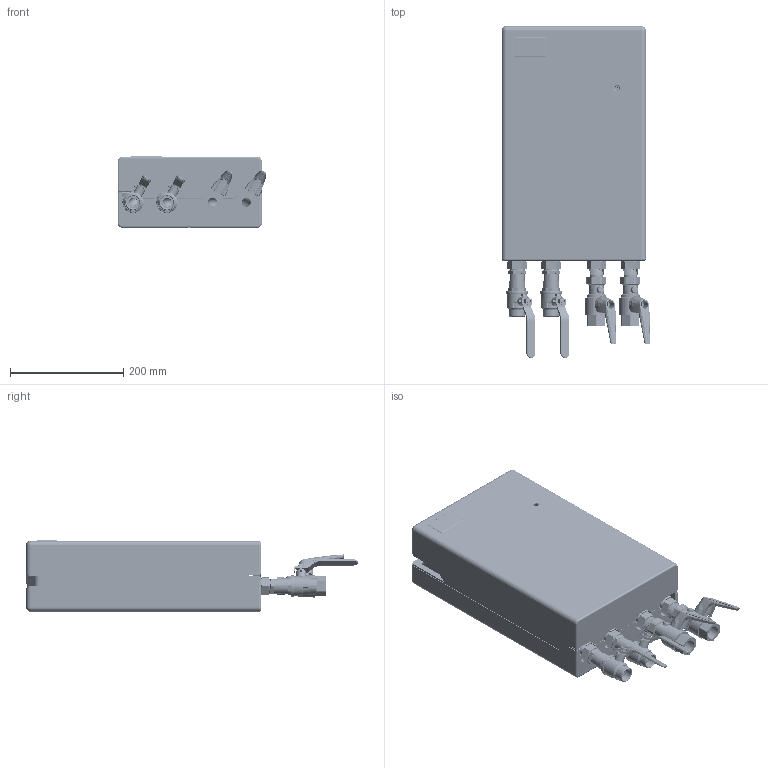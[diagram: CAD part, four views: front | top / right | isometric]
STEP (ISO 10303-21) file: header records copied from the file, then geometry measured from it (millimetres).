
FILE_DESCRIPTION(/* description */ (''),/* implementation_level */ '2;1');
FILE_NAME(/* name */ 'C:\Vault\Designs\HIUs\HSF\The SLIM\SLIM Unit Complete.stp',/* time_stamp */ '2017-12-08T12:36:23+00:00',/* author */ ('jason.lawrence'),/* organization */ (''),/* preprocessor_version */ 'ST-DEVELOPER v16.1',/* originating_system */ 'Autodesk Inventor 2016',/* authorisation */ '');
FILE_SCHEMA (('CONFIG_CONTROL_DESIGN'));
Products named in the file (52): 40078_gemonteerd; Buis 51901; 41217; 51901; Buis 51909; 51909; Buis 51902; 59146; 51902; Buis 51903; 51903; Buis 51910; 51910; Buis 51911; 51911; 59191; 59192; 59187; 59193; 59195; 59194; 51916_MET DRAAD; 51916_Assembly; 59138_MOLEX 4-PINS; 59134; 59127; Molex Microfit Dual Row 8 way - 430250800; Molex Microfit Dual Row 24 way - 430252400; 51912; 51906; 51907; 51905; CD000313; 59199; 51698; 46888-hsf; HSF Handle Red; Isolation Valve G3-4in Red Handle HSF; HSF Handle Blue; Isolation Valve G3-4in Blue Handle HSF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
Assembly tree (82 placements, depth 5):
  The SLIM HIU
    40078_gemonteerd  x8
    51901
      Buis 51901
      41217  x2
    51909
      Buis 51909
      41217  x2
    51902
      Buis 51902
      41217  x2
      59146
    51903
      Buis 51903
      41217  x2
      59146
    51910
      Buis 51910
      41217  x2
    51911
      Buis 51911
      41217  x2
    51913_ASSEMBLY
      51915
        59187
          59191
          59192
        59193  x4
        59195
        59194
        59130
      51916_Assembly
        51916_MET DRAAD
      59127
        59138_MOLEX 4-PINS
        59134
      Molex Microfit Dual Row 8 way - 430250800
      Molex Microfit Dual Row 24 way - 430252400
    51912
    51905
      51906
      51907
    E8T24 Plate Heat Exchanger
      5SCAMSW24IC8
      CD000313  x4
    59198
    59199  x2
    51698
    Isolation Valve G3-4in Red Handle HSF
      46888-hsf
      HSF Handle Red
    Isolation Valve G3-4in Blue Handle HSF
      46888-hsf
      HSF Handle Blue
    QLC WRAS Full Bore Blue Lever Ball Valve 22mm Compression
    Straight Connector 3-4M x 3-4M  x2
    QLC WRAS Full Bore Red Lever Ball Valve 22mm Compression
    Fibre washer 3-4in  x4
    TIL Polydome House
Bounding box: 263.09 x 586.53 x 126 mm (x, y, z)
Volume: 8570896.2 mm3; surface area: 1358555.7 mm2
Topology: 73 solids, 1112 shells, 12107 faces, 36011 edges, 24862 vertices
Faces by surface type: plane 6436, cylinder 3511, bspline 854, torus 636, cone 407, sphere 263
Full cylindrical faces by diameter (mm): 0.5 x5, 0.7 x4, 0.95 x2, 1 x3, 1.2 x2, 1.8 x8, 2.2 x4, 2.5 x4, 2.8 x1, 3 x9, 3.2 x1, 3.5 x6, 4 x2, 4.4 x6, 4.5 x2, 4.7 x2, 5 x10, 7.85 x4, 8.566 x2, 9 x3, 9.5 x2, 9.728 x2, 12 x2, 13 x2, 15 x4, 16 x20, 16.2 x12, 16.5 x4, 16.7 x2, 17 x3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
Entity records: 464735 total; most frequent: CARTESIAN_POINT 151428, DIRECTION 63328, ORIENTED_EDGE 57116, EDGE_CURVE 34433, VERTEX_POINT 24116, LINE 22844, VECTOR 22844, AXIS2_PLACEMENT_3D 20242
